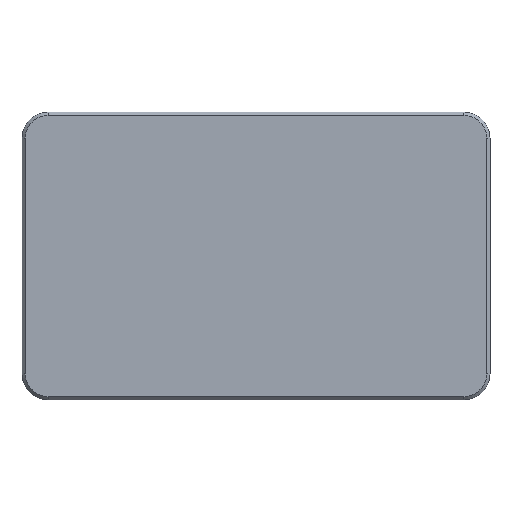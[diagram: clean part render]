
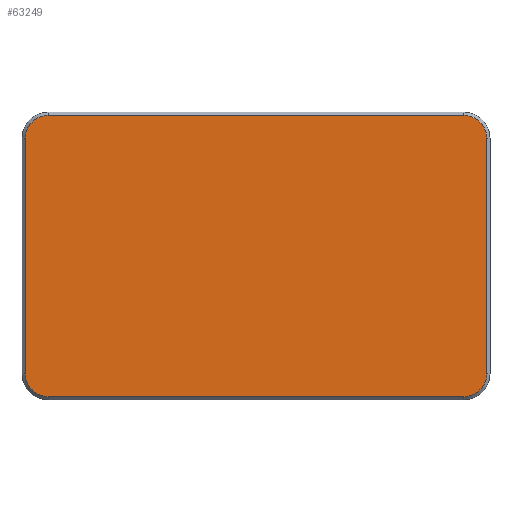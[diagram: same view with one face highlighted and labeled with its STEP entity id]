
A CAD part, front view. The second image highlights one B-rep face of the part: STEP entity #63249.
In plain terms, the highlighted planar face has unit normal (0, -1, 0).
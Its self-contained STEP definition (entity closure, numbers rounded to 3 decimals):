
#516 = AXIS2_PLACEMENT_3D ( 'NONE', #54882, #39371, #9204 ) ;
#1885 = EDGE_CURVE ( 'NONE', #27372, #90642, #72328, .T. ) ;
#2036 = CIRCLE ( 'NONE', #516, 4.174 ) ;
#2990 = VERTEX_POINT ( 'NONE', #64943 ) ;
#6886 = AXIS2_PLACEMENT_3D ( 'NONE', #28647, #50484, #28321 ) ;
#7426 = EDGE_LOOP ( 'NONE', ( #17960, #43794, #45654, #68723, #96187, #11450, #8242, #33128 ) ) ;
#7641 = VECTOR ( 'NONE', #57627, 1000. ) ;
#7836 = DIRECTION ( 'NONE',  ( 0., -1., 0. ) ) ;
#8242 = ORIENTED_EDGE ( 'NONE', *, *, #47994, .T. ) ;
#9204 = DIRECTION ( 'NONE',  ( 0., 0., -1. ) ) ;
#11282 = EDGE_CURVE ( 'NONE', #45982, #75778, #15921, .T. ) ;
#11450 = ORIENTED_EDGE ( 'NONE', *, *, #48261, .T. ) ;
#15689 = AXIS2_PLACEMENT_3D ( 'NONE', #76823, #7836, #60694 ) ;
#15921 = CIRCLE ( 'NONE', #15689, 4.174 ) ;
#17960 = ORIENTED_EDGE ( 'NONE', *, *, #27167, .T. ) ;
#25677 = CARTESIAN_POINT ( 'NONE',  ( 42.29, -5., -21.606 ) ) ;
#26102 = EDGE_CURVE ( 'NONE', #59448, #2990, #45882, .T. ) ;
#27167 = EDGE_CURVE ( 'NONE', #90642, #92569, #2036, .T. ) ;
#27372 = VERTEX_POINT ( 'NONE', #33693 ) ;
#28321 = DIRECTION ( 'NONE',  ( 0., 0., -1. ) ) ;
#28347 = CARTESIAN_POINT ( 'NONE',  ( 42.29, -5., 21.606 ) ) ;
#28647 = CARTESIAN_POINT ( 'NONE',  ( 38.116, -5., -21.606 ) ) ;
#29038 = EDGE_CURVE ( 'NONE', #75778, #59448, #41198, .T. ) ;
#31803 = CARTESIAN_POINT ( 'NONE',  ( 38.116, -5., 25.78 ) ) ;
#33128 = ORIENTED_EDGE ( 'NONE', *, *, #1885, .T. ) ;
#33387 = DIRECTION ( 'NONE',  ( 0., 0., 1. ) ) ;
#33693 = CARTESIAN_POINT ( 'NONE',  ( -42.29, -5., 21.606 ) ) ;
#34932 = DIRECTION ( 'NONE',  ( 0., -1., 0. ) ) ;
#35931 = DIRECTION ( 'NONE',  ( 0., 0., -1. ) ) ;
#37802 = CARTESIAN_POINT ( 'NONE',  ( -42.29, -5., -21.606 ) ) ;
#39371 = DIRECTION ( 'NONE',  ( 0., -1., 0. ) ) ;
#41198 = LINE ( 'NONE', #25677, #95566 ) ;
#43684 = LINE ( 'NONE', #58328, #7641 ) ;
#43794 = ORIENTED_EDGE ( 'NONE', *, *, #81494, .T. ) ;
#43855 = CARTESIAN_POINT ( 'NONE',  ( 38.116, -5., -25.78 ) ) ;
#45654 = ORIENTED_EDGE ( 'NONE', *, *, #11282, .T. ) ;
#45882 = CIRCLE ( 'NONE', #75885, 4.174 ) ;
#45982 = VERTEX_POINT ( 'NONE', #43855 ) ;
#47994 = EDGE_CURVE ( 'NONE', #96425, #27372, #57585, .T. ) ;
#48100 = AXIS2_PLACEMENT_3D ( 'NONE', #90205, #34932, #35931 ) ;
#48261 = EDGE_CURVE ( 'NONE', #2990, #96425, #53864, .T. ) ;
#48378 = CARTESIAN_POINT ( 'NONE',  ( -42.29, -5., -21.606 ) ) ;
#50484 = DIRECTION ( 'NONE',  ( 0., -1., 0. ) ) ;
#51751 = CARTESIAN_POINT ( 'NONE',  ( -38.116, -5., -25.78 ) ) ;
#53864 = LINE ( 'NONE', #31803, #90147 ) ;
#54882 = CARTESIAN_POINT ( 'NONE',  ( -38.116, -5., -21.606 ) ) ;
#55805 = DIRECTION ( 'NONE',  ( 0., 0., -1. ) ) ;
#57585 = CIRCLE ( 'NONE', #48100, 4.174 ) ;
#57627 = DIRECTION ( 'NONE',  ( 1., 0., 0. ) ) ;
#58328 = CARTESIAN_POINT ( 'NONE',  ( 38.116, -5., -25.78 ) ) ;
#59448 = VERTEX_POINT ( 'NONE', #28347 ) ;
#60694 = DIRECTION ( 'NONE',  ( 0., 0., -1. ) ) ;
#63249 = ADVANCED_FACE ( 'NONE', ( #83666 ), #88980, .T. ) ;
#63877 = VECTOR ( 'NONE', #55805, 1000. ) ;
#64943 = CARTESIAN_POINT ( 'NONE',  ( 38.116, -5., 25.78 ) ) ;
#68723 = ORIENTED_EDGE ( 'NONE', *, *, #29038, .T. ) ;
#68831 = CARTESIAN_POINT ( 'NONE',  ( 42.29, -5., -21.606 ) ) ;
#70548 = DIRECTION ( 'NONE',  ( -1., 0., 0. ) ) ;
#72328 = LINE ( 'NONE', #48378, #63877 ) ;
#75778 = VERTEX_POINT ( 'NONE', #68831 ) ;
#75885 = AXIS2_PLACEMENT_3D ( 'NONE', #88507, #80074, #95586 ) ;
#76823 = CARTESIAN_POINT ( 'NONE',  ( 38.116, -5., -21.606 ) ) ;
#80074 = DIRECTION ( 'NONE',  ( 0., -1., 0. ) ) ;
#81494 = EDGE_CURVE ( 'NONE', #92569, #45982, #43684, .T. ) ;
#83666 = FACE_OUTER_BOUND ( 'NONE', #7426, .T. ) ;
#88507 = CARTESIAN_POINT ( 'NONE',  ( 38.116, -5., 21.606 ) ) ;
#88980 = PLANE ( 'NONE',  #6886 ) ;
#90147 = VECTOR ( 'NONE', #70548, 1000. ) ;
#90205 = CARTESIAN_POINT ( 'NONE',  ( -38.116, -5., 21.606 ) ) ;
#90642 = VERTEX_POINT ( 'NONE', #37802 ) ;
#92569 = VERTEX_POINT ( 'NONE', #51751 ) ;
#95566 = VECTOR ( 'NONE', #33387, 1000. ) ;
#95586 = DIRECTION ( 'NONE',  ( 0., 0., -1. ) ) ;
#96187 = ORIENTED_EDGE ( 'NONE', *, *, #26102, .T. ) ;
#96425 = VERTEX_POINT ( 'NONE', #98104 ) ;
#98104 = CARTESIAN_POINT ( 'NONE',  ( -38.116, -5., 25.78 ) ) ;
